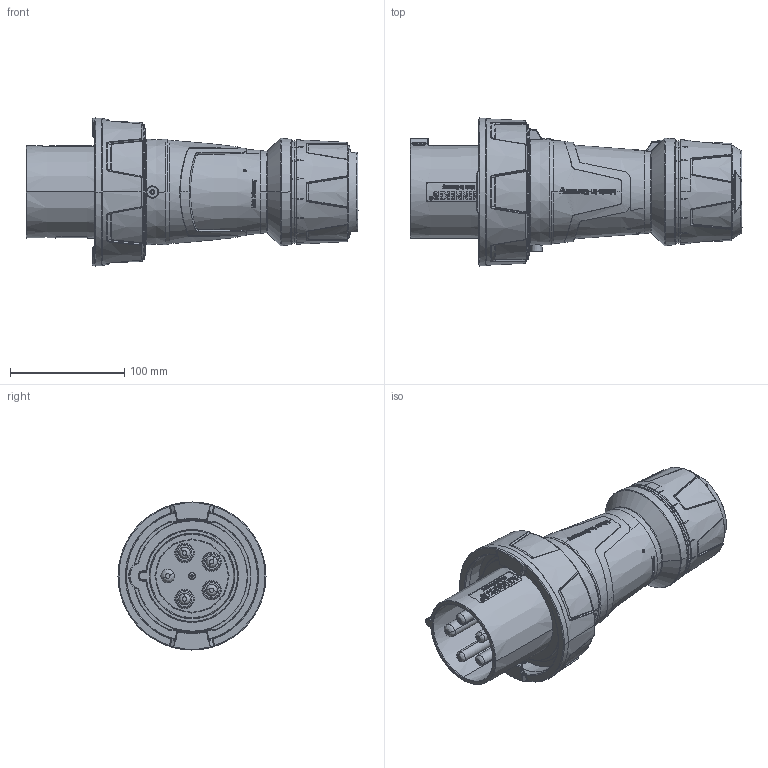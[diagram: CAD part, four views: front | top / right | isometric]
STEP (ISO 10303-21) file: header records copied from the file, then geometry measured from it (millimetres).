
FILE_DESCRIPTION((''),'2;1');
FILE_NAME('13219_DUMMY_SW0001','2018-02-02T',('gisse'),('MENNEKES'),'PRO/ENGINEER BY PARAMETRIC TECHNOLOGY CORPORATION, 2015440','PRO/ENGINEER BY PARAMETRIC TECHNOLOGY CORPORATION, 2015440','');
FILE_SCHEMA(('AUTOMOTIVE_DESIGN { 1 0 10303 214 1 1 1 1 }'));
Products named in the file (1): 13219_DUMMY_SW0001
Bounding box: 291 x 129.75 x 129.75 mm (x, y, z)
Volume: 1555858.1 mm3; surface area: 155101.3 mm2
Topology: 1 solids, 1 shells, 3333 faces, 8922 edges, 5714 vertices
Faces by surface type: plane 1209, extrusion 914, bspline 558, cylinder 287, cone 213, torus 124, sphere 28
Entity records: 173088 total; most frequent: CARTESIAN_POINT 56615, ORIENTED_EDGE 17844, DIRECTION 11231, EDGE_CURVE 8922, FILL_AREA_STYLE_COLOUR 6419, FILL_AREA_STYLE 6419, SURFACE_STYLE_FILL_AREA 6419, SURFACE_SIDE_STYLE 6419
